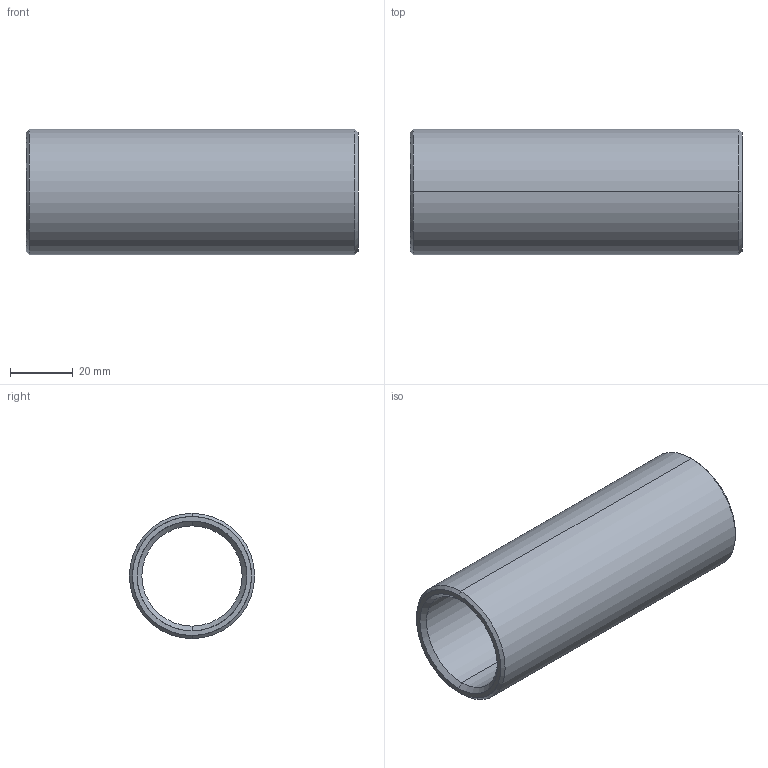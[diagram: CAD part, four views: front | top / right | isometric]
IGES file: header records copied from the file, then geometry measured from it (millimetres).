
Start section: START RECORD GO HERE.
Global section: file name: 352-32X106.igs; native system: DASSAULT SYSTEMES CATIA V5 R20 - www.3ds.com; preprocessor: CATIA Version 5 Release 20 ; author: Utente; organization: NB04-ASUS; date: 20210414.165733; units: millimetre
Bounding box: 106 x 40 x 40 mm (x, y, z)
Surface area: 24603.5 mm2 (no closed solid volume)
Topology: 0 solids, 0 shells, 14 faces, 88 edges, 88 vertices
Faces by surface type: revolution 12, plane 2
